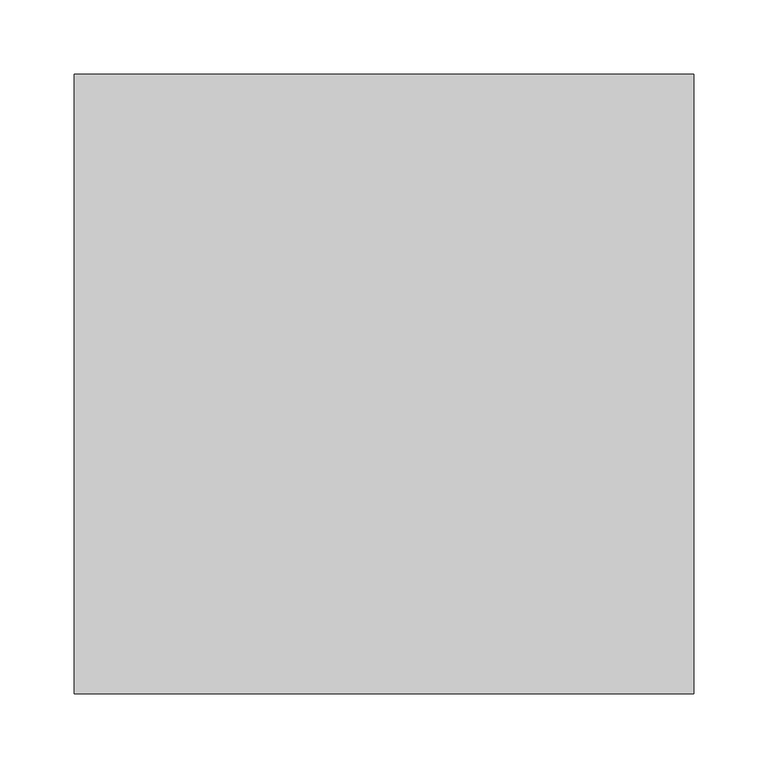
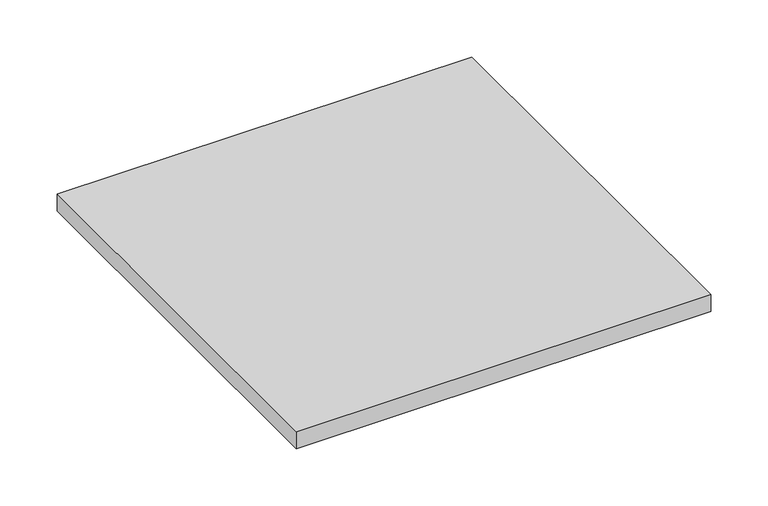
"""IFC4 building model written with IfcOpenShell, lengths in millimetres: proxy geometry, TECHNO_Решетка_KVU : Решетка рулонная деревянная / Светлое дерево."""

from ifc_helpers import new_model, si_unit, frame, origin, place, context, project, spatial, polyline, outline, extrude, source, transform, mapped, element, save


def mechanical_equipment_fd9d8960(model_context):
    return source(origin(), model_context, "Body", "SweptSolid", [
        extrude(outline(polyline([(208.8, 208.8), (208.8, -210.0), (-210.0, -210.0), (-210.0, 208.8), (208.8, 208.8)])), frame((0.0, 0.0, -18.1), z_axis=(0.0, 0.0, 1.0), x_axis=(1.0, 0.0, 0.0)), (0.0, 0.0, 1.0), 18.1),
    ])


if __name__ == "__main__":
    model = new_model("IFC4")
    model_context = context("Model", 3, world=origin())
    ifc_project = project(units=[si_unit("LENGTHUNIT", "METRE", prefix="MILLI")], contexts=[model_context])
    site = spatial("IfcSite", under=ifc_project)
    building = spatial("IfcBuilding", under=site)
    placement = place(None, origin())
    mechanical_equipment_shape = mechanical_equipment_fd9d8960(model_context)
    element("IfcBuildingElementProxy", 1, Name="TECHNO_Решетка_KVU : Решетка рулонная деревянная / Светлое дерево", ObjectType="TECHNO_Решетка_KVU : Решетка рулонная деревянная / Светлое дерево", at=placement, inside=building, context=model_context, shape_type="MappedRepresentation", body=[
        mapped(mechanical_equipment_shape, transform((0.0, 0.0, 0.0), x_axis=(1.0, 0.0, 0.0), y_axis=(0.0, 1.0, 0.0), z_axis=(0.0, 0.0, 1.0))),
    ])
    save(model, "model.ifc")
